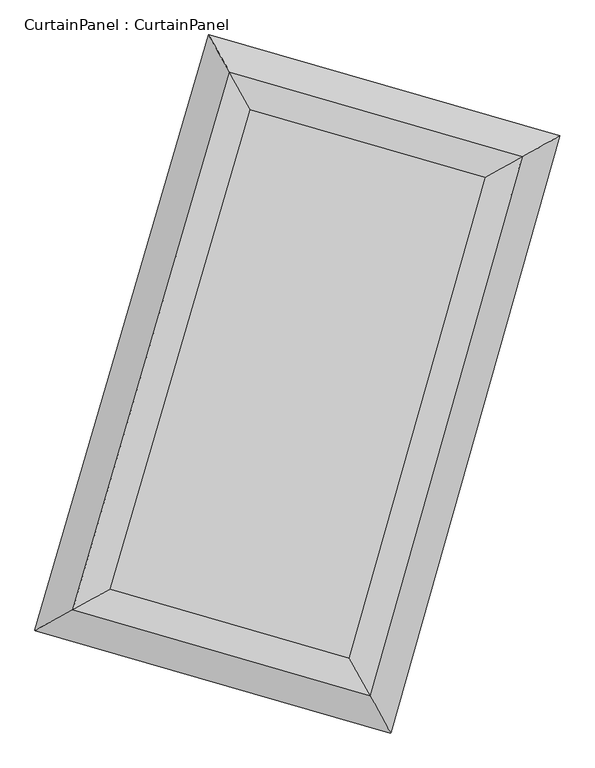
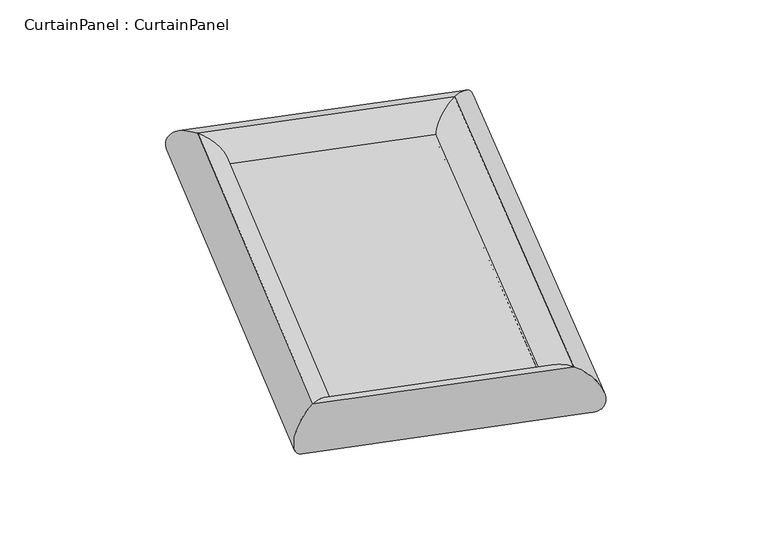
"""IFC4 building model written with IfcOpenShell, lengths in millimetres: plate geometry, CurtainPanel : CurtainPanel."""

from ifc_helpers import new_model, si_unit, frame, origin, origin_with_axes, place, context, project, spatial, polyline, ellipse_curve, outline, extrude, source, transform, mapped, element, save
from ifc_brep_helpers import cylinder_surface, advanced_brep


def curtainpanel_curtainpanel_1d076447(model_context):
    return source(origin(), model_context, "Body", "SolidModel", [
        extrude(outline(polyline([(2932.4806935, 2932.4806935), (4070.6404687, 6827.5804771), (6195.5400426, 6216.1175135), (5089.3387952, 2311.821316), (2932.4806935, 2932.4806935)])), origin_with_axes(), (0.0, 0.0, 1.0), 20.0),
        advanced_brep(
        [(2932.4806935, 2932.4806935, -220.0), (2932.4806935, 2932.4806935, 220.0), (5089.3387952, 2311.821316, 220.0), (5089.3387952, 2311.821316, -220.0), (6195.5400426, 6216.1175135, 220.0), (6195.5400426, 6216.1175135, -220.0), (4070.6404687, 6827.5804771, 220.0), (4070.6404687, 6827.5804771, -220.0)],
        [
            (0, 1, ellipse_curve(frame((2932.4806935, 2932.4806935, 0.0), z_axis=(0.4821950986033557, -0.8760638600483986, 0.0), x_axis=(-0.8760638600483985, -0.4821950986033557, 0.0)), 311.7663754, 220.0)),
            (1, 2),
            (2, 3, ellipse_curve(frame((5089.3387952, 2311.821316, 0.0), z_axis=(-0.8740806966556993, -0.4857807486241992, 0.0), x_axis=(-0.4857807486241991, 0.8740806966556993, 0.0)), 311.7663754, 220.0)),
            (3, 0),
            (1, 0, ellipse_curve(frame((2932.4806935, 2932.4806935, 0.0), z_axis=(0.4821950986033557, -0.8760638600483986, 0.0), x_axis=(-0.8760638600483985, -0.4821950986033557, 0.0)), 311.7663754, 220.0)),
            (3, 2, ellipse_curve(frame((5089.3387952, 2311.821316, 0.0), z_axis=(-0.8740806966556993, -0.4857807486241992, 0.0), x_axis=(-0.4857807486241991, 0.8740806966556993, 0.0)), 311.7663754, 220.0)),
            (2, 4),
            (4, 5, ellipse_curve(frame((6195.5400426, 6216.1175135, 0.0), z_axis=(0.48578074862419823, -0.8740806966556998, 0.0), x_axis=(-0.8740806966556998, -0.4857807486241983, 0.0)), 310.4915099, 220.0)),
            (5, 3),
            (5, 4, ellipse_curve(frame((6195.5400426, 6216.1175135, 0.0), z_axis=(0.48578074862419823, -0.8740806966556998, 0.0), x_axis=(-0.8740806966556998, -0.4857807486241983, 0.0)), 310.4915099, 220.0)),
            (4, 6),
            (6, 7, ellipse_curve(frame((4070.6404687, 6827.5804771, 0.0), z_axis=(0.8760638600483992, 0.48219509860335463, 0.0), x_axis=(0.48219509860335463, -0.8760638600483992, 0.0)), 310.4915099, 220.0)),
            (7, 5),
            (7, 6, ellipse_curve(frame((4070.6404687, 6827.5804771, 0.0), z_axis=(0.8760638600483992, 0.48219509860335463, 0.0), x_axis=(0.48219509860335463, -0.8760638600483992, 0.0)), 310.4915099, 220.0)),
            (6, 1),
            (0, 7),
        ],
        [
            cylinder_surface(frame((2932.4806935, 2932.4806935, 0.0), z_axis=(-0.9610027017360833, 0.27653897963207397, 0.0), x_axis=(0.27653897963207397, 0.9610027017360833, 0.0)), 220.0),
            cylinder_surface(frame((5089.3387952, 2311.821316, 0.0), z_axis=(-0.27259892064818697, -0.9621277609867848, 0.0), x_axis=(-0.9621277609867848, 0.27259892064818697, 0.0)), 220.0),
            cylinder_surface(frame((6195.5400426, 6216.1175135, 0.0), z_axis=(0.9610027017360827, -0.2765389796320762, 0.0), x_axis=(-0.2765389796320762, -0.9610027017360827, 0.0)), 220.0),
            cylinder_surface(frame((4070.6404687, 6827.5804771, 0.0), z_axis=(0.2804743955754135, 0.9598615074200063, 0.0), x_axis=(0.9598615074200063, -0.2804743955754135, 0.0)), 220.0),
        ],
        [
            (0, [[1, 2, 3, 4]]),
            (0, [[5, -4, 6, -2]]),
            (1, [[-3, 7, 8, 9]]),
            (1, [[-6, -9, 10, -7]]),
            (2, [[-8, 11, 12, 13]]),
            (2, [[-10, -13, 14, -11]]),
            (3, [[-12, 15, -1, 16]]),
            (3, [[-14, -16, -5, -15]]),
        ],
    ),
    ])


if __name__ == "__main__":
    model = new_model("IFC4")
    model_context = context("Model", 3, world=origin())
    ifc_project = project(units=[si_unit("LENGTHUNIT", "METRE", prefix="MILLI")], contexts=[model_context])
    site = spatial("IfcSite", under=ifc_project)
    building = spatial("IfcBuilding", under=site)
    placement = place(None, origin())
    curtainpanel_curtainpanel_shape = curtainpanel_curtainpanel_1d076447(model_context)
    element("IfcPlate", 1, ObjectType="CurtainPanel : CurtainPanel", at=placement, inside=building, context=model_context, shape_type="MappedRepresentation", body=[
        mapped(curtainpanel_curtainpanel_shape, transform((0.0, 0.0, 0.0), x_axis=(1.0, 0.0, 0.0), y_axis=(0.0, 1.0, 0.0), z_axis=(0.0, 0.0, 1.0))),
    ])
    save(model, "model.ifc")
